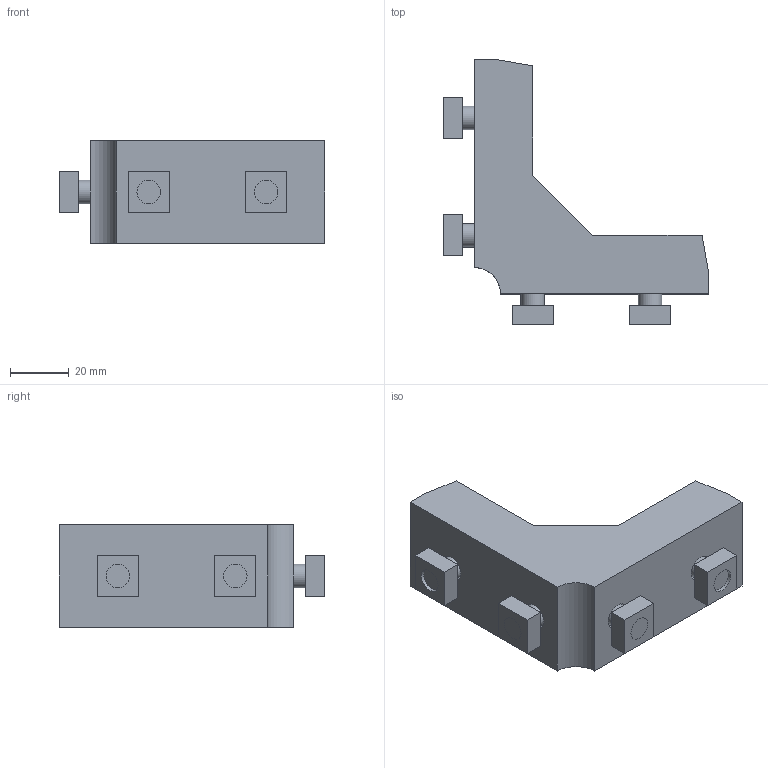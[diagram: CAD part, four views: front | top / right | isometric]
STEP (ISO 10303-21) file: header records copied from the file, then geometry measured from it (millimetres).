
FILE_DESCRIPTION((''),'2;1');
FILE_NAME('C:\Documents and Settings\古川典政\My Documents\Inventor\HP用\MasterData\BRACKET\M8\ABLRD-40-8.stp','2008-07-31T10:56:01',(''),(''),'Autodesk Inventor 2008','Autodesk Inventor 2008','');
FILE_SCHEMA(('CONFIG_CONTROL_DESIGN'));
Length unit declared in the file: millimetre
Products named in the file (10): ABLRD-40-8; ABLRD-40-81; ABLRD-40-82; ABLRD-40-83; ABLRD-40-84; ABLRD-40-85; ABLRD-40-86; ABLRD-40-87; ABLRD-40-88; ABLRD-40-89
Assembly tree (9 placements, depth 2):
  ABLRD-40-8
    ABLRD-40-81
    ABLRD-40-82
    ABLRD-40-83
    ABLRD-40-84
    ABLRD-40-85
    ABLRD-40-86
    ABLRD-40-87
    ABLRD-40-88
    ABLRD-40-89
Bounding box: 90.5 x 90.5 x 35 mm (x, y, z)
Volume: 64594.3 mm3; surface area: 29245.4 mm2
Topology: 9 solids, 9 shells, 95 faces, 205 edges, 138 vertices
Faces by surface type: plane 73, cylinder 14, bspline 8
Full cylindrical faces by diameter (mm): 8 x4, 8.4 x2, 9 x2, 13 x2, 14 x1, 18 x2
Entity records: 2799 total; most frequent: CARTESIAN_POINT 543, DIRECTION 431, ORIENTED_EDGE 354, EDGE_CURVE 177, AXIS2_PLACEMENT_3D 148, EDGE_LOOP 141, VECTOR 135, LINE 135
